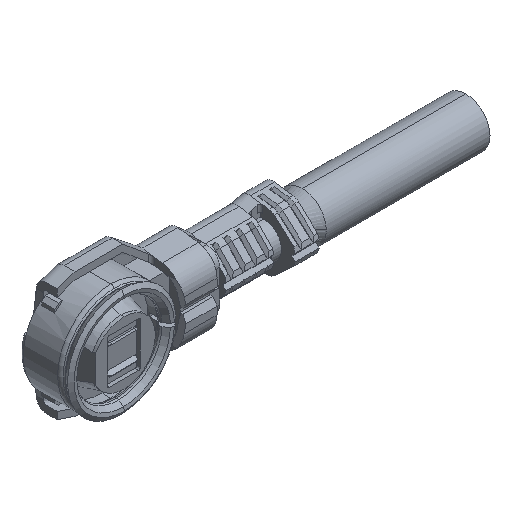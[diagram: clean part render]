
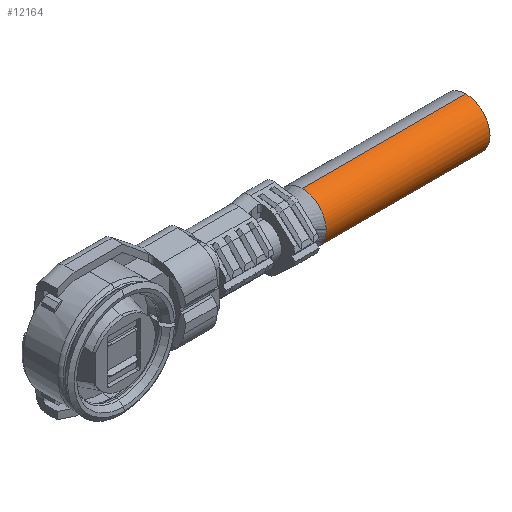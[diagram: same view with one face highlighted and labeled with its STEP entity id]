
A CAD part, isometric view. The second image highlights one B-rep face of the part: STEP entity #12164.
In plain terms, the highlighted cylindrical face has radius 0.405 mm (diameter 0.81 mm), a partial arc.
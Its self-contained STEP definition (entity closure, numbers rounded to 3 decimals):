
#9 = CARTESIAN_POINT ( 'NONE',  ( 3.475, 0.316, 0.043 ) ) ;
#180 = AXIS2_PLACEMENT_3D ( 'NONE', #11921, #3157, #10062 ) ;
#419 = CARTESIAN_POINT ( 'NONE',  ( 3.475, 0.34, -0.147 ) ) ;
#461 = CARTESIAN_POINT ( 'NONE',  ( 3.475, 0.315, 0.009 ) ) ;
#467 = LINE ( 'NONE', #9899, #2155 ) ;
#1241 = CARTESIAN_POINT ( 'NONE',  ( 3.475, 0.435, 0.293 ) ) ;
#1371 = CARTESIAN_POINT ( 'NONE',  ( 3.475, 0.717, -0.405 ) ) ;
#1418 = CARTESIAN_POINT ( 'NONE',  ( 3.475, 0.314, -0.025 ) ) ;
#1780 = VERTEX_POINT ( 'NONE', #7679 ) ;
#2155 = VECTOR ( 'NONE', #10886, 1000. ) ;
#2641 = CARTESIAN_POINT ( 'NONE',  ( 6.22, 0.72, 0. ) ) ;
#2842 = EDGE_CURVE ( 'NONE', #4440, #5968, #4195, .T. ) ;
#2956 = CARTESIAN_POINT ( 'NONE',  ( 6.22, 0.72, 0.405 ) ) ;
#3157 = DIRECTION ( 'NONE',  ( -1., 0., 0. ) ) ;
#3225 = CYLINDRICAL_SURFACE ( 'NONE', #180, 0.405 ) ;
#3431 = LINE ( 'NONE', #2956, #8083 ) ;
#3524 = FACE_OUTER_BOUND ( 'NONE', #9004, .T. ) ;
#3639 = DIRECTION ( 'NONE',  ( 0., 0., 1. ) ) ;
#3749 = EDGE_CURVE ( 'NONE', #1780, #5968, #3431, .T. ) ;
#4162 = ORIENTED_EDGE ( 'NONE', *, *, #12028, .F. ) ;
#4195 = B_SPLINE_CURVE_WITH_KNOTS ( 'NONE', 3,
 ( #461, #9, #12409, #10825, #5016, #1241, #6742, #12408, #6418, #9721 ),
 .UNSPECIFIED., .F., .F.,
 ( 4, 2, 2, 2, 4 ),
 ( 0., 0.062, 0.125, 0.187, 0.247 ),
 .UNSPECIFIED. ) ;
#4330 = CARTESIAN_POINT ( 'NONE',  ( 3.475, 0.644, -0.403 ) ) ;
#4440 = VERTEX_POINT ( 'NONE', #10918 ) ;
#5016 = CARTESIAN_POINT ( 'NONE',  ( 3.475, 0.368, 0.208 ) ) ;
#5329 = CARTESIAN_POINT ( 'NONE',  ( 3.475, 0.466, -0.322 ) ) ;
#5717 = VERTEX_POINT ( 'NONE', #12016 ) ;
#5806 = ORIENTED_EDGE ( 'NONE', *, *, #10275, .T. ) ;
#5862 = AXIS2_PLACEMENT_3D ( 'NONE', #2641, #9566, #3639 ) ;
#5968 = VERTEX_POINT ( 'NONE', #6791 ) ;
#5993 = ORIENTED_EDGE ( 'NONE', *, *, #6820, .F. ) ;
#6332 = CARTESIAN_POINT ( 'NONE',  ( 3.475, 0.359, -0.192 ) ) ;
#6366 = CIRCLE ( 'NONE', #5862, 0.405 ) ;
#6418 = CARTESIAN_POINT ( 'NONE',  ( 3.475, 0.656, 0.405 ) ) ;
#6742 = CARTESIAN_POINT ( 'NONE',  ( 3.475, 0.481, 0.333 ) ) ;
#6791 = CARTESIAN_POINT ( 'NONE',  ( 3.475, 0.72, 0.405 ) ) ;
#6820 = EDGE_CURVE ( 'NONE', #10486, #4440, #7132, .T. ) ;
#7132 = B_SPLINE_CURVE_WITH_KNOTS ( 'NONE', 3,
 ( #8224, #1371, #10238, #4330, #11248, #5329, #12236, #6332, #419, #7324, #1418, #8313 ),
 .UNSPECIFIED., .F., .F.,
 ( 4, 2, 2, 2, 2, 4 ),
 ( 0.747, 0.75, 0.812, 0.875, 0.937, 1. ),
 .UNSPECIFIED. ) ;
#7324 = CARTESIAN_POINT ( 'NONE',  ( 3.475, 0.318, -0.063 ) ) ;
#7679 = CARTESIAN_POINT ( 'NONE',  ( 6.22, 0.72, 0.405 ) ) ;
#8083 = VECTOR ( 'NONE', #10848, 1000. ) ;
#8224 = CARTESIAN_POINT ( 'NONE',  ( 3.475, 0.72, -0.405 ) ) ;
#8313 = CARTESIAN_POINT ( 'NONE',  ( 3.475, 0.315, 0.009 ) ) ;
#9004 = EDGE_LOOP ( 'NONE', ( #4162, #5806, #9037, #9303, #5993 ) ) ;
#9037 = ORIENTED_EDGE ( 'NONE', *, *, #3749, .T. ) ;
#9303 = ORIENTED_EDGE ( 'NONE', *, *, #2842, .F. ) ;
#9566 = DIRECTION ( 'NONE',  ( -1., 0., 0. ) ) ;
#9721 = CARTESIAN_POINT ( 'NONE',  ( 3.475, 0.72, 0.405 ) ) ;
#9899 = CARTESIAN_POINT ( 'NONE',  ( 6.22, 0.72, -0.405 ) ) ;
#10063 = CARTESIAN_POINT ( 'NONE',  ( 3.475, 0.72, -0.405 ) ) ;
#10062 = DIRECTION ( 'NONE',  ( 0., 0., 1. ) ) ;
#10238 = CARTESIAN_POINT ( 'NONE',  ( 3.475, 0.714, -0.405 ) ) ;
#10275 = EDGE_CURVE ( 'NONE', #5717, #1780, #6366, .T. ) ;
#10486 = VERTEX_POINT ( 'NONE', #10063 ) ;
#10825 = CARTESIAN_POINT ( 'NONE',  ( 3.475, 0.347, 0.163 ) ) ;
#10848 = DIRECTION ( 'NONE',  ( -1., 0., 0. ) ) ;
#10886 = DIRECTION ( 'NONE',  ( -1., 0., 0. ) ) ;
#10918 = CARTESIAN_POINT ( 'NONE',  ( 3.475, 0.315, 0.009 ) ) ;
#11248 = CARTESIAN_POINT ( 'NONE',  ( 3.475, 0.577, -0.384 ) ) ;
#11921 = CARTESIAN_POINT ( 'NONE',  ( 6.22, 0.72, 0. ) ) ;
#12016 = CARTESIAN_POINT ( 'NONE',  ( 6.22, 0.72, -0.405 ) ) ;
#12028 = EDGE_CURVE ( 'NONE', #5717, #10486, #467, .T. ) ;
#12164 = ADVANCED_FACE ( 'NONE', ( #3524 ), #3225, .T. ) ;
#12236 = CARTESIAN_POINT ( 'NONE',  ( 3.475, 0.422, -0.28 ) ) ;
#12408 = CARTESIAN_POINT ( 'NONE',  ( 3.475, 0.592, 0.389 ) ) ;
#12409 = CARTESIAN_POINT ( 'NONE',  ( 3.475, 0.321, 0.081 ) ) ;
